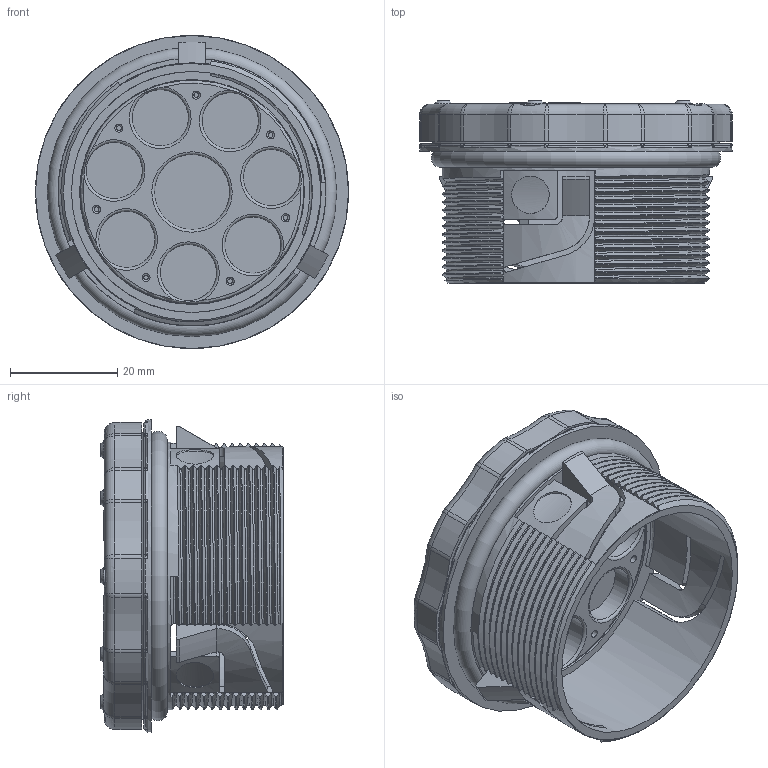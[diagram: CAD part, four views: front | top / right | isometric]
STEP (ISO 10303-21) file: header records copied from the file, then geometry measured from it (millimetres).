
FILE_DESCRIPTION(/* description */ (''),/* implementation_level */ '2;1');
FILE_NAME(/* name */ 'C:\SapWorkDir\Inventor\MP1\ConvertTempPath\87_16_121506_00_A_220622_KDP-R M50-08 ZSB.stp',/* time_stamp */ '2022-06-22T15:57:01+02:00',/* author */ ('BAUER'),/* organization */ (''),/* preprocessor_version */ 'ST-DEVELOPER v16.13',/* originating_system */ 'Autodesk Inventor 2018',/* authorisation */ '');
FILE_SCHEMA (('AUTOMOTIVE_DESIGN { 1 0 10303 214 3 1 1 }'));
Products named in the file (7): 121506; Gehäuse; 87.16.46.1; 87.16.46.2; 87.16.46.3; 87.16.44.6; 121498
Assembly tree (6 placements, depth 2):
  121506
    Gehäuse
    87.16.46.1
    87.16.46.2
    87.16.46.3
    87.16.44.6
    121498
Bounding box: 58.4 x 34 x 58.4 mm (x, y, z)
Volume: 28955.5 mm3; surface area: 33688.8 mm2
Topology: 6 solids, 6 shells, 1531 faces, 4035 edges, 2586 vertices
Faces by surface type: plane 514, bspline 403, cylinder 337, torus 191, sphere 60, cone 26
Full cylindrical faces by diameter (mm): 1.5 x7, 2 x7, 3.8 x11, 4 x4, 4.969 x3, 6.2 x5, 7 x3, 9.5 x7, 10.5 x7, 11 x7, 11.5 x7, 11.8 x5, 12.3 x2, 13 x1, 14 x1, 15 x1, 15.1 x1, 15.8 x1, 15.9 x1, 44.2 x2, 45 x1, 46 x2, 46.2 x1, 48.7 x1, 50 x1, 53.4 x1, 54.4 x1, 58.4 x1
Entity records: 53733 total; most frequent: CARTESIAN_POINT 18519, ORIENTED_EDGE 7604, DIRECTION 6433, EDGE_CURVE 3802, VERTEX_POINT 2539, AXIS2_PLACEMENT_3D 2416, EDGE_LOOP 1849, LINE 1601
